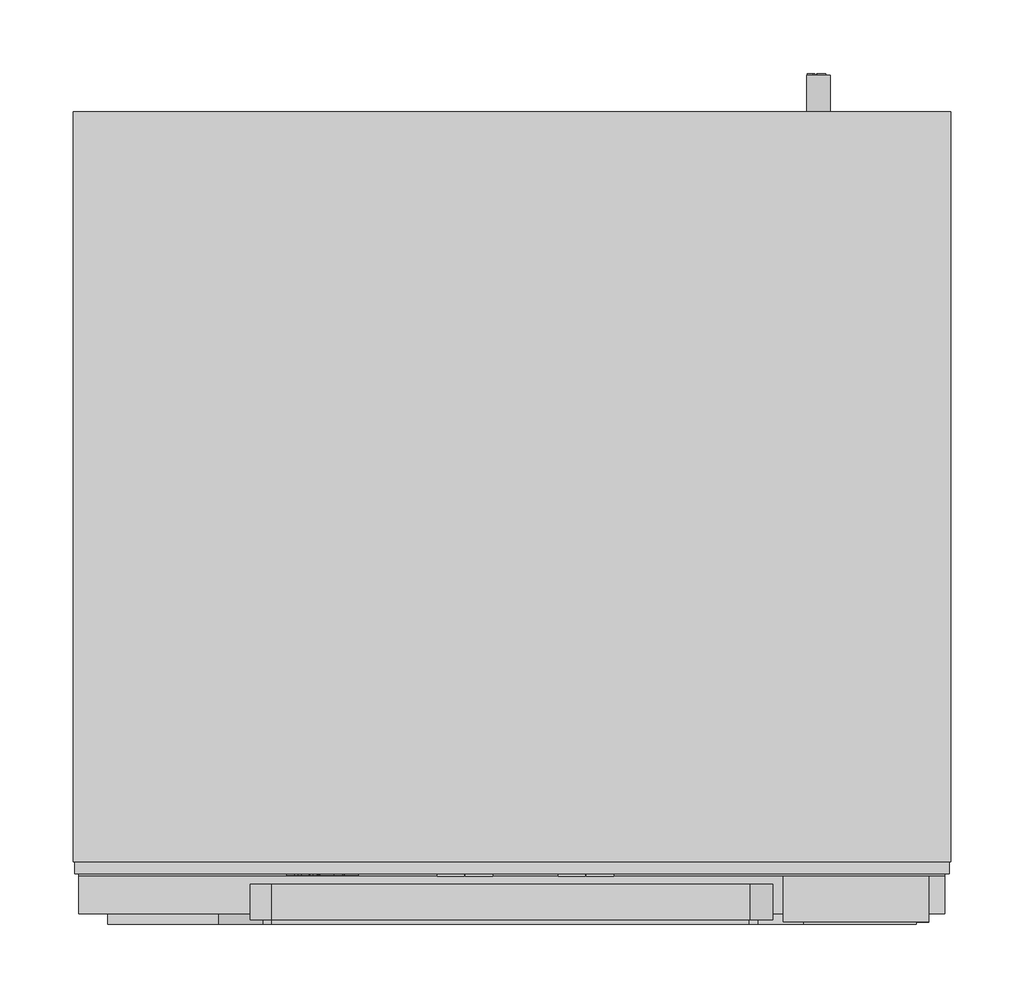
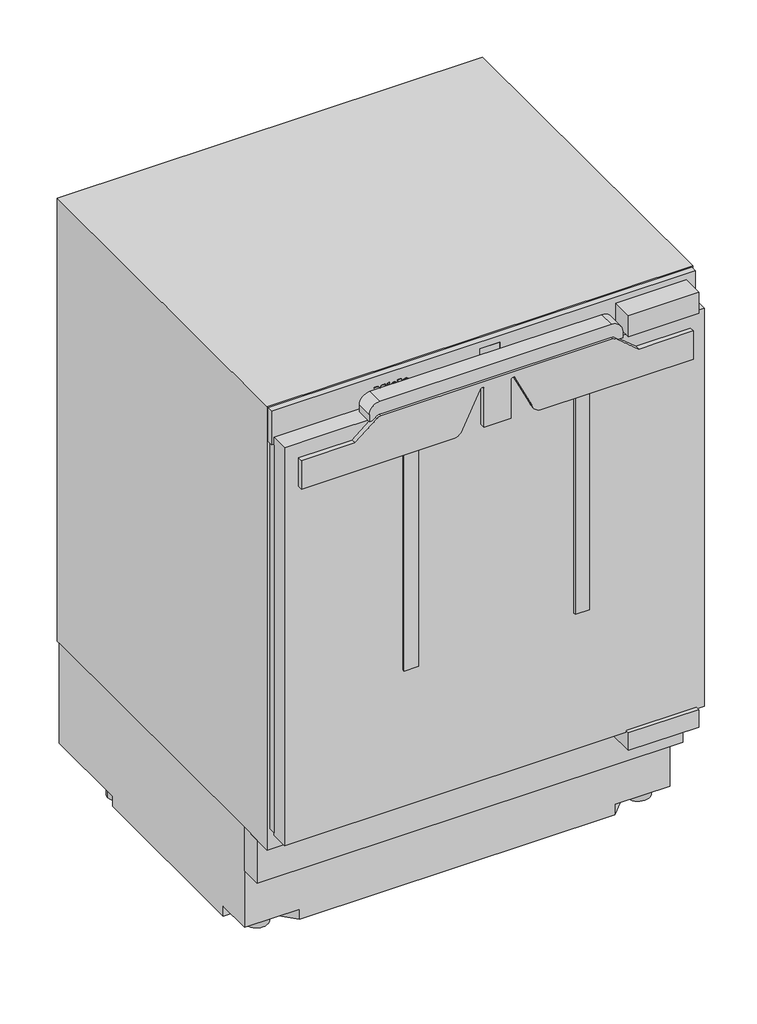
# Not in any storey: 1 proxy.
"""IFC4 building model written with IfcOpenShell, lengths in millimetres."""

import ifcopenshell
import ifcopenshell.guid

model = None  # the IFC model being written
_history = None  # IfcOwnerHistory: only IFC2X3 demands one
_inside = {}  # id of a spatial element -> (the spatial element, [elements in it])
_under = {}  # id of a project, library or spatial element -> (it, [spatial elements below it])
_declared = {}  # id of a project -> (the project, [libraries it declares])
_typed = {}  # id of a type object -> (the type object, [elements of that type])
_made_of = {}  # id of a material, layer set ... -> (it, [elements and type objects made of it])


def new_model(schema):
    """Start an empty IFC model of exactly this schema.

    Asked for "IFC4X3", IfcOpenShell would pick the latest addendum, in which some entities
    have other attributes; the version numbers below select the first issue.
    IFC2X3 requires an IfcOwnerHistory on every rooted entity: one is made here for all.
    """
    global model, _history
    if schema == "IFC4X3":
        model = ifcopenshell.file(schema_version=(4, 3, 0, 0))
    else:
        model = ifcopenshell.file(schema=schema)
    _inside.clear()
    _under.clear()
    _declared.clear()
    _typed.clear()
    _made_of.clear()
    _history = None
    if model.schema == "IFC2X3":
        org = make("IfcOrganization", Name="unknown")
        user = make(
            "IfcPersonAndOrganization",
            ThePerson=make("IfcPerson", FamilyName="unknown"),
            TheOrganization=org,
        )
        app = make(
            "IfcApplication",
            ApplicationDeveloper=org,
            Version="unknown",
            ApplicationFullName="unknown",
            ApplicationIdentifier="unknown",
        )
        _history = make(
            "IfcOwnerHistory",
            OwningUser=user,
            OwningApplication=app,
            ChangeAction="ADDED",
            CreationDate=0,
        )
    return model


def make(cls, **values):
    """One entity of the class cls with the attributes given. An attribute that is None is left unset."""
    return model.create_entity(
        cls, **{name: value for name, value in values.items() if value is not None}
    )


def rooted(cls, **values):
    """An entity with a GlobalId (a new one), such as an element, a storey or a relation."""
    return make(cls, GlobalId=ifcopenshell.guid.new(), OwnerHistory=_history, **values)


def si_unit(unit_type, name, prefix=None):
    """IfcSIUnit, for example si_unit("LENGTHUNIT", "METRE", prefix="MILLI")."""
    return make("IfcSIUnit", UnitType=unit_type, Prefix=prefix, Name=name)


def assignment(units):
    """IfcUnitAssignment: the units of a project."""
    return None if units is None else make("IfcUnitAssignment", Units=units)


def point(xyz):
    """IfcCartesianPoint."""
    return None if xyz is None else make("IfcCartesianPoint", Coordinates=xyz)


def direction(xyz):
    """IfcDirection."""
    return None if xyz is None else make("IfcDirection", DirectionRatios=xyz)


def frame(location, z_axis=None, x_axis=None):
    """IfcAxis2Placement3D, a coordinate frame: its origin and axes. An axis left out is left unset."""
    return make(
        "IfcAxis2Placement3D",
        Location=point(location),
        Axis=direction(z_axis),
        RefDirection=direction(x_axis),
    )


def frame_2d(location, x_axis=None):
    """IfcAxis2Placement2D, a coordinate frame in the plane: its origin and x axis."""
    return make(
        "IfcAxis2Placement2D", Location=point(location), RefDirection=direction(x_axis)
    )


def origin():
    """The frame at (0, 0, 0) with its axes left unset."""
    return frame((0.0, 0.0, 0.0))


def origin_with_axes():
    """The frame at (0, 0, 0) with the z axis (0, 0, 1) and the x axis (1, 0, 0) written out."""
    return frame((0.0, 0.0, 0.0), z_axis=(0.0, 0.0, 1.0), x_axis=(1.0, 0.0, 0.0))


def place(relative_to, where):
    """IfcLocalPlacement: puts the frame where relative to a parent placement (None: the world)."""
    return make(
        "IfcLocalPlacement", PlacementRelTo=relative_to, RelativePlacement=where
    )


def context(
    kind, dimensions, precision=None, world=None, true_north=None, identifier=None
):
    """IfcGeometricRepresentationContext, for example the 3D "Model" context."""
    return make(
        "IfcGeometricRepresentationContext",
        ContextIdentifier=identifier,
        ContextType=kind,
        CoordinateSpaceDimension=dimensions,
        Precision=precision,
        WorldCoordinateSystem=world,
        TrueNorth=true_north,
    )


def project(units=None, contexts=None):
    """IfcProject with its units and contexts."""
    return rooted(
        "IfcProject",
        Name="project",
        RepresentationContexts=contexts,
        UnitsInContext=assignment(units),
    )


def spatial(cls, under=None, at=None, **own):
    """A site, building, storey or space (cls), placed at a placement, below another one or the project."""
    s = rooted(cls, ObjectPlacement=at, **own)
    if under is not None:
        _under.setdefault(under.id(), (under, []))[1].append(s)
    return s


def polyline(points):
    """IfcPolyline through the points."""
    return make("IfcPolyline", Points=[point(p) for p in points])


def circle_curve(where, radius):
    """IfcCircle in the frame where."""
    return make("IfcCircle", Position=where, Radius=radius)


def ellipse_curve(where, semi_axis1, semi_axis2):
    """IfcEllipse in the frame where."""
    return make(
        "IfcEllipse", Position=where, SemiAxis1=semi_axis1, SemiAxis2=semi_axis2
    )


def trimmed(basis, trim1, trim2, sense, master):
    """IfcTrimmedCurve: the piece of a basis curve between two trims."""
    return make(
        "IfcTrimmedCurve",
        BasisCurve=basis,
        Trim1=trim1,
        Trim2=trim2,
        SenseAgreement=sense,
        MasterRepresentation=master,
    )


def segment(curve, same_sense, transition):
    """IfcCompositeCurveSegment."""
    return make(
        "IfcCompositeCurveSegment",
        Transition=transition,
        SameSense=same_sense,
        ParentCurve=curve,
    )


def composite_curve(segments, self_intersect=None):
    """IfcCompositeCurve: segments joined end to end."""
    return make("IfcCompositeCurve", Segments=segments, SelfIntersect=self_intersect)


def outline(outer, holes=None, kind="AREA"):
    """IfcArbitraryClosedProfileDef: a profile drawn as a closed curve; with holes, ...WithVoids."""
    if holes is None:
        return make("IfcArbitraryClosedProfileDef", ProfileType=kind, OuterCurve=outer)
    return make(
        "IfcArbitraryProfileDefWithVoids",
        ProfileType=kind,
        OuterCurve=outer,
        InnerCurves=holes,
    )


def extrude(swept, where, along, depth):
    """IfcExtrudedAreaSolid: the profile swept, set in the frame where, extruded along a direction by depth."""
    return make(
        "IfcExtrudedAreaSolid",
        SweptArea=swept,
        Position=where,
        ExtrudedDirection=direction(along),
        Depth=depth,
    )


def faces_of(points, faces, orient=None, outer=None):
    """IfcFace entities. A face is a list of loops; a loop is a list of indices into points, from 0.

    orient and outer hold one flag for each loop. By default every Orientation is true, the
    first loop of a face is its IfcFaceOuterBound and the others are IfcFaceBound.
    """
    made = []
    for i, loops in enumerate(faces):
        bounds = []
        for j, loop in enumerate(loops):
            is_outer = j == 0 if outer is None else outer[i][j]
            bounds.append(
                make(
                    "IfcFaceOuterBound" if is_outer else "IfcFaceBound",
                    Bound=make("IfcPolyLoop", Polygon=[points[k] for k in loop]),
                    Orientation=True if orient is None else orient[i][j],
                )
            )
        made.append(make("IfcFace", Bounds=bounds))
    return made


def faceted_brep(points, faces, orient=None, outer=None, voids=None):
    """IfcFacetedBrep: a solid bounded by flat faces; with voids (closed shells), ...WithVoids."""
    shared = [point(p) for p in points]
    hull = make("IfcClosedShell", CfsFaces=faces_of(shared, faces, orient, outer))
    if voids is None:
        return make("IfcFacetedBrep", Outer=hull)
    return make(
        "IfcFacetedBrepWithVoids",
        Outer=hull,
        Voids=[
            make(cls, CfsFaces=faces_of(shared, fs, o, b)) for cls, fs, o, b in voids
        ],
    )


def shape(context_of_items, identifier, shape_type, items):
    """IfcShapeRepresentation: the items that make up one representation, for example the "Body"."""
    return make(
        "IfcShapeRepresentation",
        ContextOfItems=context_of_items,
        RepresentationIdentifier=identifier,
        RepresentationType=shape_type,
        Items=items,
    )


def source(mapping_origin, context_of_items, identifier, shape_type, items):
    """IfcRepresentationMap: a shape defined once, which mapped items show again and again."""
    return make(
        "IfcRepresentationMap",
        MappingOrigin=mapping_origin,
        MappedRepresentation=shape(context_of_items, identifier, shape_type, items),
    )


def transform(
    local_origin,
    x_axis=None,
    y_axis=None,
    z_axis=None,
    scale=None,
    scale2=None,
    scale3=None,
    uniform=True,
):
    """IfcCartesianTransformationOperator3D, or its non-uniform kind. x_axis, y_axis, z_axis: its Axis1, 2, 3."""
    if uniform:
        return make(
            "IfcCartesianTransformationOperator3D",
            Axis1=direction(x_axis),
            Axis2=direction(y_axis),
            LocalOrigin=point(local_origin),
            Scale=scale,
            Axis3=direction(z_axis),
        )
    return make(
        "IfcCartesianTransformationOperator3DnonUniform",
        Axis1=direction(x_axis),
        Axis2=direction(y_axis),
        LocalOrigin=point(local_origin),
        Scale=scale,
        Axis3=direction(z_axis),
        Scale2=scale2,
        Scale3=scale3,
    )


def mapped(mapping_source, mapping_target):
    """IfcMappedItem: shows the shape of a source again, moved by a transform."""
    return make(
        "IfcMappedItem", MappingSource=mapping_source, MappingTarget=mapping_target
    )


def made_of(thing, what):
    """Note that an element or type object is made of a material, layer set ...; save() writes the relation."""
    if what is not None:
        _made_of.setdefault(what.id(), (what, []))[1].append(thing)
    return thing


def element(
    cls,
    number,
    at=None,
    inside=None,
    cuts=None,
    type_object=None,
    material=None,
    context=None,
    identifier="Body",
    shape_type=None,
    held_by="IfcProductDefinitionShape",
    body=None,
    shapes=None,
    **own,
):
    """One element of the class cls, such as IfcWall. Its Tag is "e" and its number.

    at: its placement. inside: the storey or other place that contains it. cuts: it is an
    opening in that element (IfcRelVoidsElement). A single representation is given by context,
    identifier, shape_type and body (its items); several are given by shapes. held_by: the class
    of the entity that holds the representations. save() writes the other relations.
    """
    e = rooted(cls, Tag="e%d" % number, ObjectPlacement=at, **own)
    if body is not None:
        shapes = [shape(context, identifier, shape_type, body)]
    if shapes is not None:
        e.Representation = make(held_by, Representations=shapes)
    if inside is not None:
        _inside.setdefault(inside.id(), (inside, []))[1].append(e)
    if cuts is not None:
        rooted(
            "IfcRelVoidsElement", RelatingBuildingElement=cuts, RelatedOpeningElement=e
        )
    if type_object is not None:
        _typed.setdefault(type_object.id(), (type_object, []))[1].append(e)
    return made_of(e, material)


def aggregate(whole, parts):
    """IfcRelAggregates: a whole, such as a stair, and the parts it consists of."""
    return rooted("IfcRelAggregates", RelatingObject=whole, RelatedObjects=parts)


def save(model, path):
    """Write the relations noted so far, then the file.

    IfcRelAggregates (storeys below a building ...), IfcRelContainedInSpatialStructure (elements
    in a storey), IfcRelDefinesByType, IfcRelAssociatesMaterial and IfcRelDeclares: one each for
    every whole, place, type object, material and project.
    """
    for whole, parts in _under.values():
        aggregate(whole, parts)
    for where, things in _inside.values():
        rooted(
            "IfcRelContainedInSpatialStructure",
            RelatedElements=things,
            RelatingStructure=where,
        )
    for kind, things in _typed.values():
        rooted("IfcRelDefinesByType", RelatedObjects=things, RelatingType=kind)
    for what, things in _made_of.values():
        rooted("IfcRelAssociatesMaterial", RelatedObjects=things, RelatingMaterial=what)
    for by, libraries in _declared.values():
        rooted("IfcRelDeclares", RelatingContext=by, RelatedDefinitions=libraries)
    model.write(path)


def plane_surface(at):
    """IfcPlane: the flat surface through the origin of the frame at, square to its z axis."""
    return make("IfcPlane", Position=at)


def cylinder_surface(at, radius):
    """IfcCylindricalSurface: all points at the distance radius from the z axis of the frame at."""
    return make("IfcCylindricalSurface", Position=at, Radius=radius)


def revolved_surface(curve, axis_point, axis_direction):
    """IfcSurfaceOfRevolution: the curve turned about the line through axis_point along axis_direction."""
    return make(
        "IfcSurfaceOfRevolution",
        SweptCurve=make("IfcArbitraryOpenProfileDef", ProfileType="CURVE", Curve=curve),
        AxisPosition=make("IfcAxis1Placement", Location=point(axis_point), Axis=direction(axis_direction)),
    )


def extruded_surface(curve, direction_of_extrusion, depth):
    """IfcSurfaceOfLinearExtrusion: the curve pushed along a direction by depth."""
    return make(
        "IfcSurfaceOfLinearExtrusion",
        SweptCurve=make("IfcArbitraryOpenProfileDef", ProfileType="CURVE", Curve=curve),
        ExtrudedDirection=direction(direction_of_extrusion),
        Depth=depth,
    )


def advanced_brep(points, edges, surfaces, faces):
    """IfcAdvancedBrep: a solid bounded by faces that lie on surfaces and meet in shared edges.

    An edge is (start, end): straight between two places in points (the first is 0);
    or (start, end, curve); or (start, end, curve, False) where it runs against its curve.
    A face is (place in surfaces, loops), or (place, loops, False) where it looks against
    its surface's normal. A loop lists edges by number (the first is 1), with a minus sign
    where the edge is run from its end to its start. The first loop is the outer one.
    """
    corners = [point(p) for p in points]
    vertices = [make("IfcVertexPoint", VertexGeometry=c) for c in corners]
    made = []
    for start, end, *more in edges:
        made.append(
            make(
                "IfcEdgeCurve",
                EdgeStart=vertices[start],
                EdgeEnd=vertices[end],
                EdgeGeometry=more[0] if more else make("IfcPolyline", Points=[corners[start], corners[end]]),
                SameSense=more[1] if len(more) > 1 else True,
            )
        )
    hull = []
    for where, loops, *sense in faces:
        bounds = []
        for j, loop in enumerate(loops):
            ring = [make("IfcOrientedEdge", EdgeElement=made[abs(k) - 1], Orientation=k > 0) for k in loop]
            bounds.append(
                make(
                    "IfcFaceOuterBound" if j == 0 else "IfcFaceBound",
                    Bound=make("IfcEdgeLoop", EdgeList=ring),
                    Orientation=True,
                )
            )
        hull.append(make("IfcAdvancedFace", Bounds=bounds, FaceSurface=surfaces[where], SameSense=sense[0] if sense else True))
    return make("IfcAdvancedBrep", Outer=make("IfcClosedShell", CfsFaces=hull))


def specialty_equipment_11cac2a6(model_context):
    return source(origin(), model_context, "Body", "SolidModel", [
        advanced_brep(
        [(-110.007984, 33.1191139, 797.0960122), (-110.007984, 33.1191139, 797.9040122), (-104.655984, 33.1191139, 797.9040122), (-113.967984, 33.1191139, 797.9040122), (-111.767984, 33.1191139, 795.2000122), (-104.791984, 33.1191139, 797.0960122), (-107.207984, 33.1191139, 797.0960122), (-109.111984, 33.1191139, 796.2000122), (-110.007984, 33.1191139, 798.9280122), (-110.007984, 33.1191139, 799.8000122), (-108.639984, 33.1191139, 799.8000122), (-108.639984, 33.1191139, 798.9280122), (-110.007984, 34.1191139, 797.0960122), (-109.111984, 34.1191139, 796.2000122), (-107.207984, 34.1191139, 797.0960122), (-104.791984, 34.1191139, 797.0960122), (-111.767984, 34.1191139, 795.2000122), (-113.967984, 34.1191139, 797.9040122), (-104.655984, 34.1191139, 797.9040122), (-110.007984, 34.1191139, 797.9040122), (-110.007984, 34.1191139, 798.9280122), (-108.639984, 34.1191139, 798.9280122), (-108.639984, 34.1191139, 799.8000122), (-110.007984, 34.1191139, 799.8000122)],
        [
            (0, 1),
            (1, 2),
            (2, 3, ellipse_curve(frame((-109.311984, 33.1191139, 797.9040122), z_axis=(0.0, -1.0, 0.0), x_axis=(-1.0, 0.0, 0.0)), 4.656, 3.848)),
            (3, 4, circle_curve(frame((-110.8719404, 33.1191139, 798.1760122), z_axis=(0.0, -1.0, 0.0), x_axis=(0.0, 0.0, -1.0)), 3.1079688)),
            (4, 5, circle_curve(frame((-109.4051904, 33.1191139, 800.2880122), z_axis=(0.0, -1.0, 0.0), x_axis=(0.0, 0.0, -1.0)), 5.6098607)),
            (5, 6),
            (6, 7, circle_curve(frame((-108.7209252, 33.1191139, 797.8400122), z_axis=(0.0, 1.0, 0.0), x_axis=(0.0, 0.0, -1.0)), 1.6859795)),
            (7, 0, circle_curve(frame((-109.111984, 33.1191139, 797.0960122), z_axis=(0.0, 1.0, 0.0), x_axis=(0.0, 0.0, -1.0)), 0.896)),
            (8, 9),
            (9, 10, circle_curve(frame((-109.323984, 33.1191139, 799.8000122), z_axis=(0.0, 1.0, 0.0), x_axis=(0.0, 0.0, -1.0)), 0.684)),
            (10, 11),
            (11, 8),
            (12, 13, circle_curve(frame((-109.111984, 34.1191139, 797.0960122), z_axis=(0.0, -1.0, 0.0), x_axis=(0.0, 0.0, -1.0)), 0.896)),
            (13, 14, circle_curve(frame((-108.7209252, 34.1191139, 797.8400122), z_axis=(0.0, -1.0, 0.0), x_axis=(0.0, 0.0, -1.0)), 1.6859795)),
            (14, 15),
            (15, 16, circle_curve(frame((-109.4051904, 34.1191139, 800.2880122), z_axis=(0.0, 1.0, 0.0), x_axis=(0.0, 0.0, -1.0)), 5.6098607)),
            (16, 17, circle_curve(frame((-110.8719404, 34.1191139, 798.1760122), z_axis=(0.0, 1.0, 0.0), x_axis=(0.0, 0.0, -1.0)), 3.1079688)),
            (17, 18, ellipse_curve(frame((-109.311984, 34.1191139, 797.9040122), z_axis=(0.0, 1.0, 0.0), x_axis=(-1.0, 0.0, 0.0)), 4.656, 3.848)),
            (18, 19),
            (19, 12),
            (20, 21),
            (21, 22),
            (22, 23, circle_curve(frame((-109.323984, 34.1191139, 799.8000122), z_axis=(0.0, -1.0, 0.0), x_axis=(0.0, 0.0, -1.0)), 0.684)),
            (23, 20),
            (0, 12),
            (19, 1),
            (18, 2),
            (5, 15),
            (14, 6),
            (17, 3),
            (13, 7),
            (16, 4),
            (8, 20),
            (23, 9),
            (22, 10),
            (21, 11),
        ],
        [
            plane_surface(frame((-110.007984, 33.1191139, 797.9040122), z_axis=(0.0, -1.0, 0.0), x_axis=(0.0, 0.0, 1.0))),
            plane_surface(frame((-110.007984, 34.1191139, 797.9040122), z_axis=(0.0, 1.0, 0.0), x_axis=(0.0, 0.0, -1.0))),
            plane_surface(frame((-110.007984, 33.1191139, 797.0960122), z_axis=(1.0, 0.0, 0.0), x_axis=(0.0, 1.0, 0.0))),
            plane_surface(frame((-110.007984, 33.1191139, 797.9040122), z_axis=(0.0, 0.0, -1.0), x_axis=(0.0, 1.0, 0.0))),
            plane_surface(frame((-104.791984, 33.1191139, 797.0960122), z_axis=(0.0, 0.0, 1.0), x_axis=(0.0, 1.0, 0.0))),
            extruded_surface(trimmed(ellipse_curve(frame((-109.311984, 35.1191139, 797.9040122), z_axis=(0.0, -1.0, 0.0), x_axis=(-1.0, 0.0, 0.0)), 4.656, 3.848), [point((-104.655984, 35.1191139, 797.9040122))], [point((-113.967984, 35.1191139, 797.9040122))], True, "CARTESIAN"), (0.0, -1.0, 0.0), 1.0),
            revolved_surface(polyline([(-108.7209252, 34.1191139, 796.1540327), (-108.7209252, 33.1191139, 796.1540327)]), (-108.7209252, 34.1191139, 797.8400122), (0.0, 1.0, 0.0)),
            revolved_surface(polyline([(-109.111984, 34.1191139, 796.2000122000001), (-109.111984, 33.1191139, 796.2000122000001)]), (-109.111984, 34.1191139, 797.0960122), (0.0, 1.0, 0.0)),
            cylinder_surface(frame((-110.8719404, 34.1191139, 798.1760122), z_axis=(0.0, -1.0, 0.0), x_axis=(0.0, 0.0, -1.0)), 3.1079688),
            cylinder_surface(frame((-109.4051904, 34.1191139, 800.2880122), z_axis=(0.0, -1.0, 0.0), x_axis=(0.0, 0.0, -1.0)), 5.6098607),
            plane_surface(frame((-110.007984, 33.1191139, 798.9280122), z_axis=(1.0, 0.0, 0.0), x_axis=(0.0, 1.0, 0.0))),
            revolved_surface(polyline([(-109.323984, 34.1191139, 799.1160122), (-109.323984, 33.1191139, 799.1160122)]), (-109.323984, 34.1191139, 799.8000122), (0.0, 1.0, 0.0)),
            plane_surface(frame((-108.639984, 33.1191139, 799.8000122), z_axis=(-1.0, 0.0, 0.0), x_axis=(0.0, 1.0, 0.0))),
            plane_surface(frame((-108.639984, 33.1191139, 798.9280122), z_axis=(0.0, 0.0, 1.0), x_axis=(0.0, 1.0, 0.0))),
        ],
        [
            (0, [[1, 2, 3, 4, 5, 6, 7, 8], [9, 10, 11, 12]]),
            (1, [[13, 14, 15, 16, 17, 18, 19, 20], [21, 22, 23, 24]]),
            (2, [[-1, 25, -20, 26]]),
            (3, [[-2, -26, -19, 27]]),
            (4, [[-6, 28, -15, 29]]),
            (5, [[-3, -27, -18, 30]]),
            (6, [[-7, -29, -14, 31]]),
            (7, [[-8, -31, -13, -25]]),
            (8, [[-4, -30, -17, 32]]),
            (9, [[-5, -32, -16, -28]]),
            (10, [[-9, 33, -24, 34]]),
            (11, [[-10, -34, -23, 35]]),
            (12, [[-11, -35, -22, 36]]),
            (13, [[-12, -36, -21, -33]]),
        ],
    ),
        advanced_brep(
        [(-126.703984, 33.1191139, 797.0960122), (-126.703984, 33.1191139, 797.9040122), (-121.351984, 33.1191139, 797.9040122), (-130.663984, 33.1191139, 797.9040122), (-128.463984, 33.1191139, 795.2000122), (-121.487984, 33.1191139, 797.0960122), (-123.903984, 33.1191139, 797.0960122), (-125.807984, 33.1191139, 796.2000122), (-126.703984, 33.1191139, 798.9280122), (-126.703984, 33.1191139, 799.8000122), (-125.335984, 33.1191139, 799.8000122), (-125.335984, 33.1191139, 798.9280122), (-126.703984, 34.1191139, 797.0960122), (-125.807984, 34.1191139, 796.2000122), (-123.903984, 34.1191139, 797.0960122), (-121.487984, 34.1191139, 797.0960122), (-128.463984, 34.1191139, 795.2000122), (-130.663984, 34.1191139, 797.9040122), (-121.351984, 34.1191139, 797.9040122), (-126.703984, 34.1191139, 797.9040122), (-126.703984, 34.1191139, 798.9280122), (-125.335984, 34.1191139, 798.9280122), (-125.335984, 34.1191139, 799.8000122), (-126.703984, 34.1191139, 799.8000122)],
        [
            (0, 1),
            (1, 2),
            (2, 3, ellipse_curve(frame((-126.007984, 33.1191139, 797.9040122), z_axis=(0.0, -1.0, 0.0), x_axis=(-1.0, 0.0, 0.0)), 4.656, 3.848)),
            (3, 4, circle_curve(frame((-127.5679404, 33.1191139, 798.1760122), z_axis=(0.0, -1.0, 0.0), x_axis=(0.0, 0.0, -1.0)), 3.1079688)),
            (4, 5, circle_curve(frame((-126.1011904, 33.1191139, 800.2880122), z_axis=(0.0, -1.0, 0.0), x_axis=(0.0, 0.0, -1.0)), 5.6098607)),
            (5, 6),
            (6, 7, circle_curve(frame((-125.4169252, 33.1191139, 797.8400122), z_axis=(0.0, 1.0, 0.0), x_axis=(0.0, 0.0, -1.0)), 1.6859795)),
            (7, 0, circle_curve(frame((-125.807984, 33.1191139, 797.0960122), z_axis=(0.0, 1.0, 0.0), x_axis=(0.0, 0.0, -1.0)), 0.896)),
            (8, 9),
            (9, 10, circle_curve(frame((-126.019984, 33.1191139, 799.8000122), z_axis=(0.0, 1.0, 0.0), x_axis=(0.0, 0.0, -1.0)), 0.684)),
            (10, 11),
            (11, 8),
            (12, 13, circle_curve(frame((-125.807984, 34.1191139, 797.0960122), z_axis=(0.0, -1.0, 0.0), x_axis=(0.0, 0.0, -1.0)), 0.896)),
            (13, 14, circle_curve(frame((-125.4169252, 34.1191139, 797.8400122), z_axis=(0.0, -1.0, 0.0), x_axis=(0.0, 0.0, -1.0)), 1.6859795)),
            (14, 15),
            (15, 16, circle_curve(frame((-126.1011904, 34.1191139, 800.2880122), z_axis=(0.0, 1.0, 0.0), x_axis=(0.0, 0.0, -1.0)), 5.6098607)),
            (16, 17, circle_curve(frame((-127.5679404, 34.1191139, 798.1760122), z_axis=(0.0, 1.0, 0.0), x_axis=(0.0, 0.0, -1.0)), 3.1079688)),
            (17, 18, ellipse_curve(frame((-126.007984, 34.1191139, 797.9040122), z_axis=(0.0, 1.0, 0.0), x_axis=(-1.0, 0.0, 0.0)), 4.656, 3.848)),
            (18, 19),
            (19, 12),
            (20, 21),
            (21, 22),
            (22, 23, circle_curve(frame((-126.019984, 34.1191139, 799.8000122), z_axis=(0.0, -1.0, 0.0), x_axis=(0.0, 0.0, -1.0)), 0.684)),
            (23, 20),
            (0, 12),
            (19, 1),
            (18, 2),
            (5, 15),
            (14, 6),
            (17, 3),
            (13, 7),
            (16, 4),
            (8, 20),
            (23, 9),
            (22, 10),
            (21, 11),
        ],
        [
            plane_surface(frame((-126.703984, 33.1191139, 797.9040122), z_axis=(0.0, -1.0, 0.0), x_axis=(0.0, 0.0, 1.0))),
            plane_surface(frame((-126.703984, 34.1191139, 797.9040122), z_axis=(0.0, 1.0, 0.0), x_axis=(0.0, 0.0, -1.0))),
            plane_surface(frame((-126.703984, 33.1191139, 797.0960122), z_axis=(1.0, 0.0, 0.0), x_axis=(0.0, 1.0, 0.0))),
            plane_surface(frame((-126.703984, 33.1191139, 797.9040122), z_axis=(0.0, 0.0, -1.0), x_axis=(0.0, 1.0, 0.0))),
            plane_surface(frame((-121.487984, 33.1191139, 797.0960122), z_axis=(0.0, 0.0, 1.0), x_axis=(0.0, 1.0, 0.0))),
            extruded_surface(trimmed(ellipse_curve(frame((-126.007984, 35.1191139, 797.9040122), z_axis=(0.0, -1.0, 0.0), x_axis=(-1.0, 0.0, 0.0)), 4.656, 3.848), [point((-121.351984, 35.1191139, 797.9040122))], [point((-130.663984, 35.1191139, 797.9040122))], True, "CARTESIAN"), (0.0, -1.0, 0.0), 1.0),
            revolved_surface(polyline([(-125.4169252, 34.1191139, 796.1540327), (-125.4169252, 33.1191139, 796.1540327)]), (-125.4169252, 34.1191139, 797.8400122), (0.0, 1.0, 0.0)),
            revolved_surface(polyline([(-125.807984, 34.1191139, 796.2000122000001), (-125.807984, 33.1191139, 796.2000122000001)]), (-125.807984, 34.1191139, 797.0960122), (0.0, 1.0, 0.0)),
            cylinder_surface(frame((-127.5679404, 34.1191139, 798.1760122), z_axis=(0.0, -1.0, 0.0), x_axis=(0.0, 0.0, -1.0)), 3.1079688),
            cylinder_surface(frame((-126.1011904, 34.1191139, 800.2880122), z_axis=(0.0, -1.0, 0.0), x_axis=(0.0, 0.0, -1.0)), 5.6098607),
            plane_surface(frame((-126.703984, 33.1191139, 798.9280122), z_axis=(1.0, 0.0, 0.0), x_axis=(0.0, 1.0, 0.0))),
            revolved_surface(polyline([(-126.019984, 34.1191139, 799.1160122), (-126.019984, 33.1191139, 799.1160122)]), (-126.019984, 34.1191139, 799.8000122), (0.0, 1.0, 0.0)),
            plane_surface(frame((-125.335984, 33.1191139, 799.8000122), z_axis=(-1.0, 0.0, 0.0), x_axis=(0.0, 1.0, 0.0))),
            plane_surface(frame((-125.335984, 33.1191139, 798.9280122), z_axis=(0.0, 0.0, 1.0), x_axis=(0.0, 1.0, 0.0))),
        ],
        [
            (0, [[1, 2, 3, 4, 5, 6, 7, 8], [9, 10, 11, 12]]),
            (1, [[13, 14, 15, 16, 17, 18, 19, 20], [21, 22, 23, 24]]),
            (2, [[-1, 25, -20, 26]]),
            (3, [[-2, -26, -19, 27]]),
            (4, [[-6, 28, -15, 29]]),
            (5, [[-3, -27, -18, 30]]),
            (6, [[-7, -29, -14, 31]]),
            (7, [[-8, -31, -13, -25]]),
            (8, [[-4, -30, -17, 32]]),
            (9, [[-5, -32, -16, -28]]),
            (10, [[-9, 33, -24, 34]]),
            (11, [[-10, -34, -23, 35]]),
            (12, [[-11, -35, -22, 36]]),
            (13, [[-12, -36, -21, -33]]),
        ],
    ),
        extrude(outline(polyline([(802.7280122, -135.447984), (801.4320122, -134.839984), (802.6960122, -132.127984), (803.9920122, -132.727984), (802.7280122, -135.447984)])), frame((0.0, 33.1191139, 0.0), z_axis=(0.0, 1.0, 0.0), x_axis=(0.0, 0.0, 1.0)), (0.0, 0.0, 1.0), 1.0),
        extrude(outline(polyline([(801.2560122, -137.423984), (799.8240122, -137.423984), (799.8240122, -136.471984), (796.5440122, -136.471984), (796.5440122, -137.423984), (795.2000122, -137.423984), (795.2000122, -131.111984), (796.5440122, -131.111984), (796.5440122, -132.039984), (801.2560122, -132.039984), (801.2560122, -137.423984)])), frame((0.0, 33.1191139, 0.0), z_axis=(0.0, 1.0, 0.0), x_axis=(0.0, 0.0, 1.0)), (0.0, 0.0, 1.0), 1.0),
        extrude(outline(polyline([(801.8960122, -120.903984), (801.8960122, -119.943984), (796.5440122, -119.943984), (796.5440122, -120.903984), (795.2000122, -120.903984), (795.2000122, -114.415984), (796.5440122, -114.415984), (796.5440122, -115.399984), (803.2000122, -115.399984), (803.2000122, -120.903984), (801.8960122, -120.903984)])), frame((0.0, 33.1191139, 0.0), z_axis=(0.0, 1.0, 0.0), x_axis=(0.0, 0.0, 1.0)), (0.0, 0.0, 1.0), 1.0),
        extrude(outline(polyline([(801.8960122, -153.367984), (801.8960122, -152.399984), (796.5440122, -152.399984), (796.5440122, -153.367984), (795.2000122, -153.367984), (795.2000122, -149.847984), (796.5440122, -149.847984), (796.5440122, -150.807984), (799.947137, -150.807984), (795.2000122, -147.231984), (800.0152345, -143.639984), (796.5440122, -143.639984), (796.5440122, -144.623984), (795.2000122, -144.623984), (795.2000122, -138.239984), (796.5440122, -138.239984), (796.5440122, -139.255984), (801.8960122, -139.255984), (801.8960122, -138.239984), (803.2000122, -138.239984), (803.2000122, -143.111984), (800.2000122, -145.447984), (803.2000122, -147.791984), (803.2000122, -153.367984), (801.8960122, -153.367984)])), frame((0.0, 33.1191139, 0.0), z_axis=(0.0, 1.0, 0.0), x_axis=(0.0, 0.0, 1.0)), (0.0, 0.0, 1.0), 1.0),
        extrude(outline(polyline([(22.8031044, 34.1191139), (-4.8034096, 34.1191139), (-4.8034096, 37.1191139), (22.8031044, 37.1191139), (22.8031044, 34.1191139)])), frame((0.0, 0.0, 780.9425171), z_axis=(0.0, 0.0, 1.0), x_axis=(1.0, 0.0, 0.0)), (0.0, 0.0, 1.0), 27.6065063),
        faceted_brep([(297.5, 34.1191139, 818.3), (-297.5, 34.1191139, 818.3), (-297.5, 34.1191139, 769.0), (297.5, 34.1191139, 769.0), (22.8031044, 34.1191139, 808.5490234), (22.8031044, 34.1191139, 780.9425171), (-4.8034096, 34.1191139, 780.9425171), (-4.8034096, 34.1191139, 808.5490234), (297.5, 42.5878677, 818.3), (297.5, 42.5878677, 769.0), (-297.5, 42.5878677, 769.0), (-297.5, 42.5878677, 818.3), (22.8031044, 37.1191139, 780.9425171), (22.8031044, 37.1191139, 808.5490234), (-4.8034096, 37.1191139, 808.5490234), (-4.8034096, 37.1191139, 780.9425171)], [[[0, 1, 2, 3], [4, 5, 6, 7]], [[8, 9, 10, 11]], [[1, 0, 8, 11]], [[2, 1, 11, 10]], [[3, 2, 10, 9]], [[0, 3, 9, 8]], [[12, 13, 14, 15]], [[13, 12, 5, 4]], [[14, 13, 4, 7]], [[15, 14, 7, 6]], [[12, 15, 6, 5]]]),
        extrude(outline(polyline([(69.276268, 32.6236), (50.5390474, 32.6236), (50.5390474, 34.1191139), (69.276268, 34.1191139), (69.276268, 32.6236)])), frame((0.0, 0.0, 790.757529), z_axis=(0.0, 0.0, 1.0), x_axis=(1.0, 0.0, 0.0)), (0.0, 0.0, 1.0), 7.9893937),
        extrude(outline(polyline([(49.9912624, 32.6236), (31.4976923, 32.6236), (31.4976923, 34.1191139), (49.9912624, 34.1191139), (49.9912624, 32.6236)])), frame((0.0, 0.0, 790.757529), z_axis=(0.0, 0.0, 1.0), x_axis=(1.0, 0.0, 0.0)), (0.0, 0.0, 1.0), 7.9893937),
        extrude(outline(polyline([(-13.2239265, 32.6236), (-31.9611472, 32.6236), (-31.9611472, 34.1191139), (-13.2239265, 34.1191139), (-13.2239265, 32.6236)])), frame((0.0, 0.0, 790.757529), z_axis=(0.0, 0.0, 1.0), x_axis=(1.0, 0.0, 0.0)), (0.0, 0.0, 1.0), 7.9893937),
        extrude(outline(polyline([(-32.5089321, 32.6236), (-51.0025022, 32.6236), (-51.0025022, 34.1191139), (-32.5089321, 34.1191139), (-32.5089321, 32.6236)])), frame((0.0, 0.0, 790.757529), z_axis=(0.0, 0.0, 1.0), x_axis=(1.0, 0.0, 0.0)), (0.0, 0.0, 1.0), 7.9893937),
        extrude(outline(composite_curve([segment(trimmed(circle_curve(frame_2d((268.0, 122.0)), 16.0), [point((252.0, 122.0))], [point((284.0, 122.0))], False, "CARTESIAN"), True, "CONTINUOUS"), segment(trimmed(circle_curve(frame_2d((268.0, 122.0)), 16.0), [point((284.0, 122.0))], [point((252.0, 122.0))], False, "CARTESIAN"), True, "CONTINUOUS")], self_intersect=False)), origin_with_axes(), (0.0, 0.0, 1.0), 15.0),
        extrude(outline(composite_curve([segment(trimmed(circle_curve(frame_2d((278.5, 459.0)), 16.0), [point((262.5, 459.0))], [point((294.5, 459.0))], False, "CARTESIAN"), True, "CONTINUOUS"), segment(trimmed(circle_curve(frame_2d((278.5, 459.0)), 16.0), [point((294.5, 459.0))], [point((262.5, 459.0))], False, "CARTESIAN"), True, "CONTINUOUS")], self_intersect=False)), origin_with_axes(), (0.0, 0.0, 1.0), 15.0),
        extrude(outline(composite_curve([segment(trimmed(circle_curve(frame_2d((-278.5, 437.0)), 16.0), [point((-294.5, 437.0))], [point((-262.5, 437.0))], False, "CARTESIAN"), True, "CONTINUOUS"), segment(trimmed(circle_curve(frame_2d((-278.5, 437.0)), 16.0), [point((-262.5, 437.0))], [point((-294.5, 437.0))], False, "CARTESIAN"), True, "CONTINUOUS")], self_intersect=False)), origin_with_axes(), (0.0, 0.0, 1.0), 15.0),
        extrude(outline(composite_curve([segment(trimmed(circle_curve(frame_2d((-268.0, 122.0)), 16.0), [point((-284.0, 122.0))], [point((-252.0, 122.0))], False, "CARTESIAN"), True, "CONTINUOUS"), segment(trimmed(circle_curve(frame_2d((-268.0, 122.0)), 16.0), [point((-252.0, 122.0))], [point((-284.0, 122.0))], False, "CARTESIAN"), True, "CONTINUOUS")], self_intersect=False)), origin_with_axes(), (0.0, 0.0, 1.0), 15.0),
        extrude(outline(polyline([(298.5, 98.0), (298.5, 67.0), (-298.5, 67.0), (-298.5, 98.0), (298.5, 98.0)])), frame((0.0, 0.0, 99.0), z_axis=(0.0, 0.0, 1.0), x_axis=(1.0, 0.0, 0.0)), (0.0, 0.0, 1.0), 64.0),
        faceted_brep([(298.5, 548.0, 163.0), (298.5, 98.0, 163.0), (298.5, 98.0, 15.0), (298.5, 149.4293485, 15.0), (298.5, 149.4293485, 0.0), (298.5, 418.0, 0.0), (298.5, 418.0, 15.0), (298.5, 548.0, 15.0), (-298.5, 98.0, 163.0), (-298.5, 548.0, 163.0), (-298.5, 548.0, 15.0), (-298.5, 418.0, 15.0), (-298.5, 418.0, 0.0), (-298.5, 149.4293485, 0.0), (-298.5, 149.4293485, 15.0), (-298.5, 98.0, 15.0), (254.5, 548.0, 15.0), (254.5, 548.0, 0.0), (-254.5, 548.0, 0.0), (-254.5, 548.0, 15.0), (-221.3835978, 98.0, 15.0), (-221.3835978, 98.0, 0.0), (221.3835978, 98.0, 0.0), (221.3835978, 98.0, 15.0), (-271.0483424, 149.4293485, 0.0), (-254.5, 418.0, 0.0), (254.5, 418.0, 0.0), (271.0483424, 149.4293485, 0.0), (271.0483424, 149.4293485, 15.0), (-271.0483424, 149.4293485, 15.0), (254.5, 418.0, 15.0), (-254.5, 418.0, 15.0)], [[[0, 1, 2, 3, 4, 5, 6, 7]], [[8, 9, 10, 11, 12, 13, 14, 15]], [[9, 0, 7, 16, 17, 18, 19, 10]], [[1, 0, 9, 8]], [[1, 8, 15, 20, 21, 22, 23, 2]], [[22, 21, 24, 13, 12, 25, 18, 17, 26, 5, 4, 27]], [[28, 3, 2, 23]], [[29, 20, 15, 14]], [[28, 23, 22, 27]], [[3, 28, 27, 4]], [[29, 14, 13, 24]], [[20, 29, 24, 21]], [[6, 30, 16, 7]], [[31, 11, 10, 19]], [[30, 6, 5, 26]], [[30, 26, 17, 16]], [[25, 31, 19, 18]], [[11, 31, 25, 12]]]),
        faceted_brep([(298.5, 553.0, 820.0), (-298.5, 553.0, 820.0), (-298.5, 42.5878677, 820.0), (298.5, 42.5878677, 820.0), (298.5, 553.0, 163.0), (298.5, 42.5878677, 163.0), (-298.5, 42.5878677, 163.0), (-298.5, 553.0, 163.0), (-254.5, 42.5878677, 775.0), (254.5, 42.5878677, 775.0), (254.5, 42.5878677, 209.0), (-254.5, 42.5878677, 209.0), (254.5, 497.5878677, 775.0), (-254.5, 497.5878677, 775.0), (-254.5, 497.5878677, 209.0), (254.5, 497.5878677, 209.0)], [[[0, 1, 2, 3]], [[4, 5, 6, 7]], [[1, 0, 4, 7]], [[2, 1, 7, 6]], [[3, 2, 6, 5], [8, 9, 10, 11]], [[0, 3, 5, 4]], [[12, 13, 14, 15]], [[13, 12, 9, 8]], [[14, 13, 8, 11]], [[15, 14, 11, 10]], [[12, 15, 10, 9]]]),
        extrude(outline(composite_curve([segment(trimmed(circle_curve(frame_2d((45.0, 208.5)), 8.0), [point((45.0, 200.5))], [point((45.0, 216.5))], False, "CARTESIAN"), True, "CONTINUOUS"), segment(trimmed(circle_curve(frame_2d((45.0, 208.5)), 8.0), [point((45.0, 216.5))], [point((45.0, 200.5))], False, "CARTESIAN"), True, "CONTINUOUS")], self_intersect=False)), frame((0.0, 548.0, 0.0), z_axis=(0.0, 1.0, 0.0), x_axis=(0.0, 0.0, 1.0)), (0.0, 0.0, 1.0), 30.0),
        extrude(outline(polyline([(41.0, 213.4018082), (49.0365048, 213.4018082), (49.0365048, 207.6255704), (48.0319417, 207.6255704), (48.0319417, 212.3972451), (45.6461043, 212.3972451), (45.6461043, 207.8767112), (44.6415412, 207.8767112), (44.6415412, 212.3972451), (42.0045631, 212.3972451), (42.0045631, 207.5), (41.0, 207.5), (41.0, 213.4018082)])), frame((0.0, 578.0, 0.0), z_axis=(0.0, 1.0, 0.0), x_axis=(0.0, 0.0, 1.0)), (0.0, 0.0, 1.0), 1.0),
        extrude(outline(polyline([(41.0, 205.9931553), (49.0365048, 205.9931553), (49.0365048, 204.9885922), (42.0045631, 204.9885922), (42.0045631, 200.9703398), (41.0, 200.9703398), (41.0, 205.9931553)])), frame((0.0, 578.0, 0.0), z_axis=(0.0, 1.0, 0.0), x_axis=(0.0, 0.0, 1.0)), (0.0, 0.0, 1.0), 1.0),
        extrude(outline(polyline([(294.5, 42.5878677), (294.5, 32.5878677), (-295.0, 32.5878677), (-295.0, 42.5878677), (294.5, 42.5878677)])), frame((0.0, 0.0, 193.8000031), z_axis=(0.0, 0.0, 1.0), x_axis=(1.0, 0.0, 0.0)), (0.0, 0.0, 1.0), 574.1999969),
        extrude(outline(polyline([(-110.0, 1.6000023), (-130.0, 1.6000023), (-130.0, 4.6000023), (-110.0, 4.6000023), (-110.0, 1.6000023)])), frame((0.0, 0.0, 394.2999878), z_axis=(0.0, 0.0, 1.0), x_axis=(1.0, 0.0, 0.0)), (0.0, 0.0, 1.0), 333.9363981),
        extrude(outline(polyline([(130.0, 1.6000023), (110.0, 1.6000023), (110.0, 4.6000023), (130.0, 4.6000023), (130.0, 1.6000023)])), frame((0.0, 0.0, 394.2999878), z_axis=(0.0, 0.0, 1.0), x_axis=(1.0, 0.0, 0.0)), (0.0, 0.0, 1.0), 333.9363981),
        extrude(outline(composite_curve([segment(polyline([(758.0260477, -200.1015468), (758.0260477, -275.1414987), (715.7624527, -275.1414987), (715.7624527, -60.1316308)]), True, "CONTINUOUS"), segment(trimmed(circle_curve(frame_2d((728.8751856, -61.9450601)), 13.2375333), [point((715.7624527, -60.1316308))], [point((725.7155656, -49.0901354))], False, "CARTESIAN"), True, "CONTINUOUS"), segment(polyline([(725.7155656, -49.0901354), (775.6649649, -24.5322619)]), True, "CONTINUOUS"), segment(trimmed(circle_curve(frame_2d((775.1995283, -21.7842066)), 2.7871919), [point((775.6649649, -24.5322619))], [point((775.1995283, -18.9970147))], True, "CARTESIAN"), True, "CONTINUOUS"), segment(polyline([(775.1995283, -18.9970147), (718.0523766, -18.9970147), (718.0523766, 18.9970147), (775.1995283, 18.9970147)]), True, "CONTINUOUS"), segment(trimmed(circle_curve(frame_2d((775.1995283, 21.7842066)), 2.7871919), [point((775.1995283, 18.9970147))], [point((775.6649649, 24.5322619))], True, "CARTESIAN"), True, "CONTINUOUS"), segment(polyline([(775.6649649, 24.5322619), (725.7155656, 49.0901354)]), True, "CONTINUOUS"), segment(trimmed(circle_curve(frame_2d((728.8751856, 61.9450601)), 13.2375333), [point((725.7155656, 49.0901354))], [point((715.7624527, 60.1316308))], False, "CARTESIAN"), True, "CONTINUOUS"), segment(polyline([(715.7624527, 60.1316308), (715.7624527, 275.0), (757.703186, 275.0), (757.703186, 198.5), (782.9164427, 167.3835632)]), True, "CONTINUOUS"), segment(trimmed(circle_curve(frame_2d((778.2868859, 161.5889702)), 7.4168796), [point((782.9164427, 167.3835632))], [point((785.7037655, 161.5889702))], False, "CARTESIAN"), True, "CONTINUOUS"), segment(polyline([(785.7037655, 161.5889702), (785.7037655, -163.5889702)]), True, "CONTINUOUS"), segment(trimmed(circle_curve(frame_2d((778.2868859, -163.5889702)), 7.4168796), [point((785.7037655, -163.5889702))], [point((782.9164427, -169.3835632))], False, "CARTESIAN"), True, "CONTINUOUS"), segment(polyline([(782.9164427, -169.3835632), (758.0260477, -200.1015468)]), True, "CONTINUOUS")], self_intersect=False)), frame((0.0, 0.0, 0.0), z_axis=(0.0, 1.0, 0.0), x_axis=(0.0, 0.0, 1.0)), (0.0, 0.0, 1.0), 7.1),
        extrude(outline(composite_curve([segment(polyline([(780.0, 177.5901899), (789.5746835, 177.5901899)]), True, "CONTINUOUS"), segment(trimmed(circle_curve(frame_2d((789.5746835, 162.0636076)), 15.5265823), [point((789.5746835, 177.5901899))], [point((805.1012658, 162.0636076))], False, "CARTESIAN"), True, "CONTINUOUS"), segment(polyline([(805.1012658, 162.0636076), (805.1012658, -163.3636076)]), True, "CONTINUOUS"), segment(trimmed(circle_curve(frame_2d((790.3746835, -163.3636076)), 14.7265823), [point((805.1012658, -163.3636076))], [point((790.3746835, -178.0901899))], False, "CARTESIAN"), True, "CONTINUOUS"), segment(polyline([(790.3746835, -178.0901899), (780.0, -178.0901899), (780.0, 177.5901899)]), True, "CONTINUOUS")], self_intersect=False)), frame((0.0, 3.0175683, 0.0), z_axis=(0.0, 1.0, 0.0), x_axis=(0.0, 0.0, 1.0)), (0.0, 0.0, 1.0), 23.9410558),
        extrude(outline(polyline([(283.691444, 1.5125796), (184.6347268, 1.5125796), (184.6347268, 42.5878677), (283.691444, 42.5878677), (283.691444, 1.5125796)])), frame((0.0, 0.0, 166.5544307), z_axis=(0.0, 0.0, 1.0), x_axis=(1.0, 0.0, 0.0)), (0.0, 0.0, 1.0), 25.9455693),
        extrude(outline(polyline([(283.691444, 1.5125796), (184.6347268, 1.5125796), (184.6347268, 32.5878677), (283.691444, 32.5878677), (283.691444, 1.5125796)])), frame((0.0, 0.0, 780.0), z_axis=(0.0, 0.0, 1.0), x_axis=(1.0, 0.0, 0.0)), (0.0, 0.0, 1.0), 31.0),
        extrude(outline(polyline([(294.5, 7.1), (-295.0, 7.1), (-295.0, 32.5878677), (294.5, 32.5878677), (294.5, 7.1)])), frame((0.0, 0.0, 190.0), z_axis=(0.0, 0.0, 1.0), x_axis=(1.0, 0.0, 0.0)), (0.0, 0.0, 1.0), 590.0),
    ])


model = new_model("IFC4")

# Units and contexts
model_context = context("Model", 3, world=origin())
ifc_project = project(units=[si_unit("LENGTHUNIT", "METRE", prefix="MILLI")], contexts=[model_context])

# Site, building
site = spatial("IfcSite", under=ifc_project)
building = spatial("IfcBuilding", under=site)

# Proxy
placement = place(None, origin())
specialty_equipment_shape = specialty_equipment_11cac2a6(model_context)
element("IfcBuildingElementProxy", 1, Name="10799700_USA_K31222Ui : 36312220_USA_10799700_K31222Ui", ObjectType="10799700_USA_K31222Ui : 36312220_USA_10799700_K31222Ui", at=placement, inside=building, context=model_context, shape_type="MappedRepresentation", body=[
    mapped(specialty_equipment_shape, transform((0.0, 0.0, 0.0), x_axis=(1.0, 0.0, 0.0), y_axis=(0.0, 1.0, 0.0), z_axis=(0.0, 0.0, 1.0))),
])

save(model, "model.ifc")
